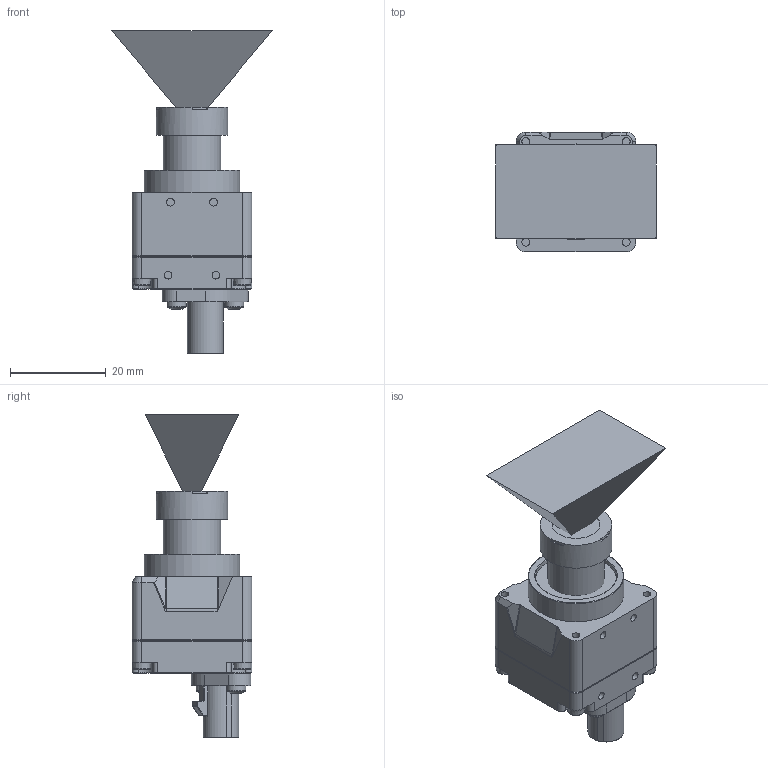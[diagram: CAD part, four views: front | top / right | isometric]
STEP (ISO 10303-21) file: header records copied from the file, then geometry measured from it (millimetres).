
FILE_DESCRIPTION(/* description */ ('STEP AP242 Edition 2','CAx-IF Rec.Pracs.---Representation and Presentation of Product Manufacturing Information (PMI)---4.0---2014-10-13','CAx-IF Rec.Pracs.---3D Tessellated Geometry---0.4---2014-09-14','2;1','CAx-IF Rec.Pracs.---User Defined Attributes---1.5---2016-08-15'),/* implementation_level */ '2;1');
FILE_NAME(/* name */ '69287045fa4dea6d2713afe1',/* time_stamp */ '2025-11-27T15:37:42Z',/* author */ (''),/* organization */ (''),/* preprocessor_version */ 'ST-DEVELOPER v20',/* originating_system */ 'ONSHAPE BY PTC INC, 1.207',/* authorisation */ ' ');
FILE_SCHEMA (('AP242_MANAGED_MODEL_BASED_3D_ENGINEERING_MIM_LF { 1 0 10303 442 3 1 4 }'));
Length unit declared in the file: metre
Products named in the file (12): ZED X One GS Compact Narrow; Camera Component - Body ZED X One - Rear; Hexalobular socket head cap screw ISO14579 M2x0.4x10; Hexalobular socket pan head screw ISO 14583 M2x5; Camera Component - Connector - FAKRA Plug; Camera Component - Seal - ZED X One; Camera Component - Body ZED X One - Front; Narrow lens <1>; Image plane; Narrow Lens optic; Narrow Lens mecha; FOV
Assembly tree (15 placements, depth 3):
  ZED X One GS Compact Narrow
    Camera Component - Body ZED X One - Rear
    Hexalobular socket head cap screw ISO14579 M2x0.4x10  x4
    Hexalobular socket pan head screw ISO 14583 M2x5  x2
    Camera Component - Connector - FAKRA Plug
    Camera Component - Seal - ZED X One
    Camera Component - Body ZED X One - Front
    Narrow lens <1>
      Image plane
      Narrow Lens optic
      Narrow Lens mecha
      FOV
Bounding box: 33.56 x 25 x 67.36 mm (x, y, z)
Volume: 14241.4 mm3; surface area: 12387 mm2
Topology: 14 solids, 14 shells, 858 faces, 2180 edges, 1388 vertices
Faces by surface type: cylinder 329, plane 328, cone 149, torus 37, bspline 9, sphere 6
Full cylindrical faces by diameter (mm): 0.5 x1, 0.55 x1, 0.95 x3, 1.2 x1, 1.6 x2, 1.623 x10, 1.754 x6, 2 x6, 2.03 x1, 2.1 x4, 2.2 x1, 2.4 x2, 2.45 x1, 3.685 x1, 3.8 x1, 4 x2, 4.35 x1, 5.3 x1, 5.4 x1, 6.2 x1, 6.3 x1, 6.5 x1, 8.62 x1, 9.6 x1, 10.028 x1, 11 x1, 11.529 x1, 11.927 x1, 14 x1, 15 x1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
Entity records: 23587 total; most frequent: CARTESIAN_POINT 5372, DIRECTION 3852, ORIENTED_EDGE 3562, EDGE_CURVE 1781, AXIS2_PLACEMENT_3D 1410, VERTEX_POINT 1189, LINE 1032, VECTOR 1032
